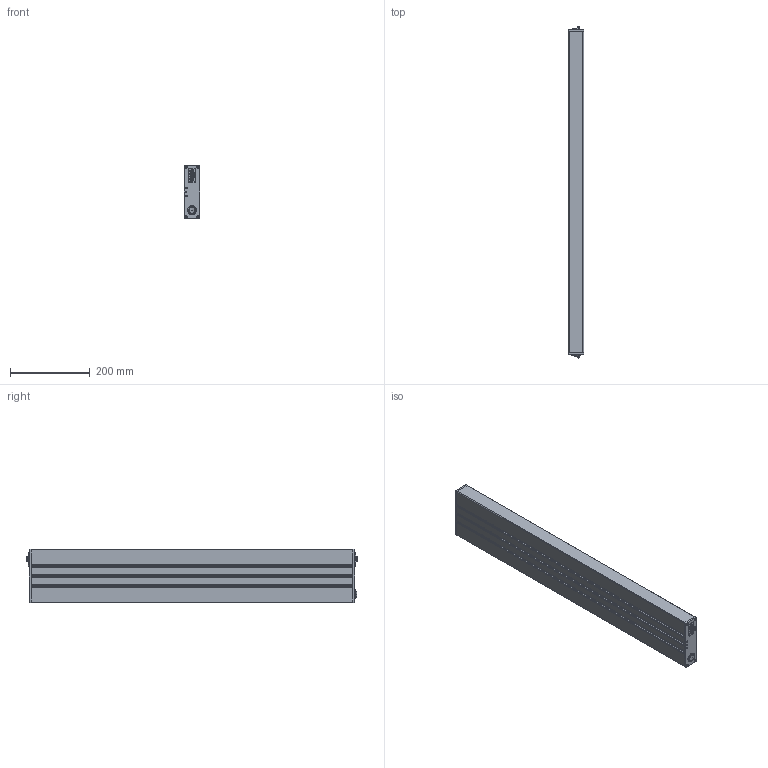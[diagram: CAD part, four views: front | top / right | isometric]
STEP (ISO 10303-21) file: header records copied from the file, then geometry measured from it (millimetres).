
FILE_DESCRIPTION(/* description */ (''),/* implementation_level */ '2;1');
FILE_NAME(/* name */ 'G:\Daten\Leuchten\05100 - LED APLN\03 - CAD\APLN_800\led-aufbauleuchte-apln-800.stp',/* time_stamp */ '2023-04-28T07:16:56+02:00',/* author */ ('gzahn'),/* organization */ (''),/* preprocessor_version */ 'ST-DEVELOPER v19',/* originating_system */ 'Autodesk Inventor 2023',/* authorisation */ '');
FILE_SCHEMA (('AUTOMOTIVE_DESIGN { 1 0 10303 214 3 1 1 }'));
Products named in the file (1): led-aufbauleuchte-apln-800
Bounding box: 38 x 831.84 x 135 mm (x, y, z)
Volume: 3935137.7 mm3; surface area: 472623.8 mm2
Topology: 1 solids, 9 shells, 2010 faces, 6189 edges, 4142 vertices
Faces by surface type: plane 1132, cylinder 624, cone 145, torus 55, sphere 36, bspline 18
Full cylindrical faces by diameter (mm): 1.3 x4, 2.3 x1, 2.305 x1, 2.5 x1, 2.8 x14, 2.9 x8, 3.5 x8, 3.6 x3, 4.1 x10, 4.4 x3, 4.5 x4, 5.5 x8, 23.012 x1
Entity records: 73127 total; most frequent: CARTESIAN_POINT 18339, ORIENTED_EDGE 11170, DIRECTION 11131, EDGE_CURVE 6176, VERTEX_POINT 4142, LINE 4091, VECTOR 4091, AXIS2_PLACEMENT_3D 3520
